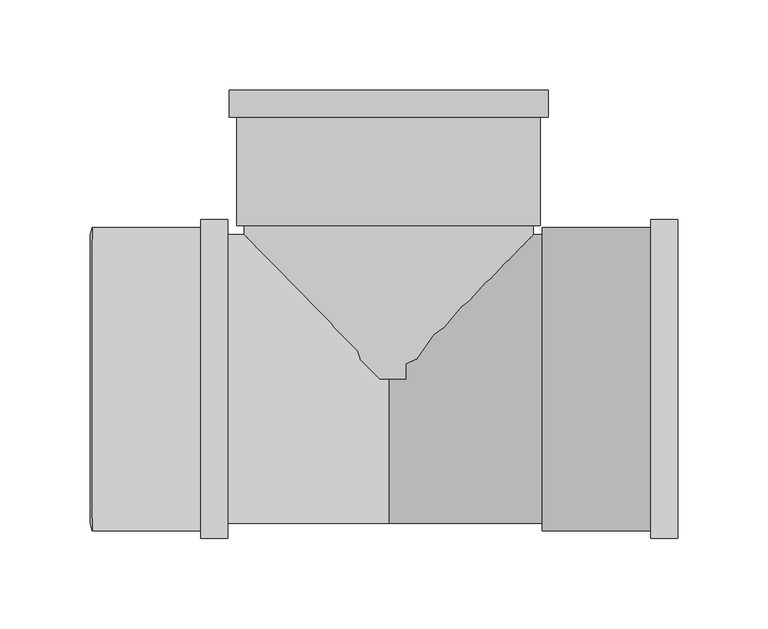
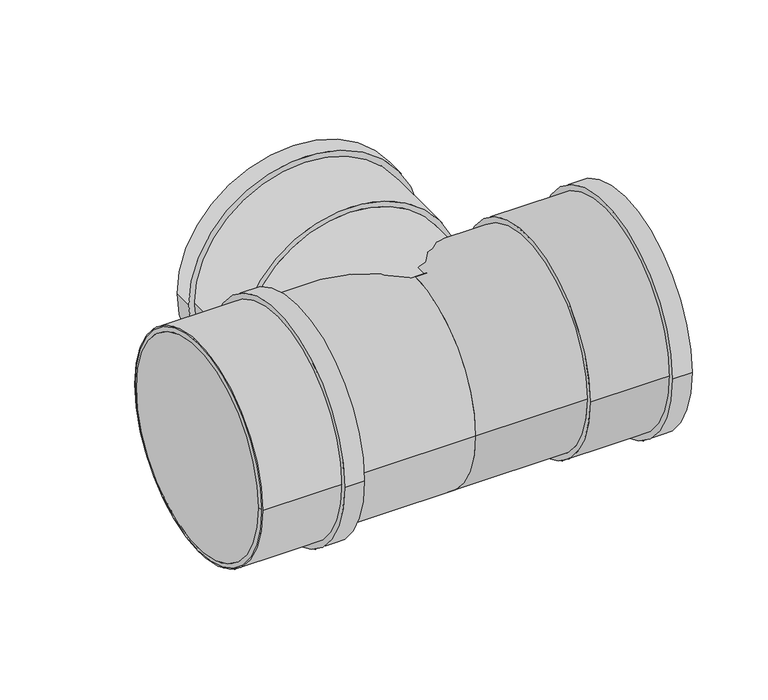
"""IFC4 building model written with IfcOpenShell, lengths in millimetres: pipe fitting geometry, Superdrain HTEA Branch : Superdrain HTEA Branch."""

from ifc_helpers import new_model, si_unit, point, frame, origin, origin_2d, place, context, project, spatial, polyline, circle_curve, trimmed, segment, composite_curve, outline, extrude, source, transform, mapped, element, save
from ifc_brep_helpers import plane_surface, revolved_surface, advanced_brep


def pipe_fitting_a100f701(model_context):
    return source(origin(), model_context, "Body", "SolidModel", [
        extrude(outline(composite_curve([segment(trimmed(circle_curve(origin_2d(), 84.0), [point((84.0, 0.0))], [point((-84.0, 0.0))], False, "CARTESIAN"), True, "CONTINUOUS"), segment(trimmed(circle_curve(origin_2d(), 84.0), [point((-84.0, 0.0))], [point((84.0, 0.0))], False, "CARTESIAN"), True, "CONTINUOUS")], self_intersect=False), holes=[composite_curve([segment(trimmed(circle_curve(origin_2d(), 80.0), [point((80.0, 0.0))], [point((-80.0, 0.0))], True, "CARTESIAN"), True, "CONTINUOUS"), segment(trimmed(circle_curve(origin_2d(), 80.0), [point((-80.0, 0.0))], [point((80.0, 0.0))], True, "CARTESIAN"), True, "CONTINUOUS")], self_intersect=False)]), frame((-164.1, 0.0, 0.0), z_axis=(1.0, 0.0, 0.0), x_axis=(0.0, 1.0, 0.0)), (0.0, 0.0, 1.0), 75.0),
        extrude(outline(composite_curve([segment(trimmed(circle_curve(origin_2d(), 88.2), [point((88.2, 0.0))], [point((-88.2, 0.0))], False, "CARTESIAN"), True, "CONTINUOUS"), segment(trimmed(circle_curve(origin_2d(), 88.2), [point((-88.2, 0.0))], [point((88.2, 0.0))], False, "CARTESIAN"), True, "CONTINUOUS")], self_intersect=False), holes=[composite_curve([segment(trimmed(circle_curve(origin_2d(), 80.0), [point((80.0, 0.0))], [point((-80.0, 0.0))], True, "CARTESIAN"), True, "CONTINUOUS"), segment(trimmed(circle_curve(origin_2d(), 80.0), [point((-80.0, 0.0))], [point((80.0, 0.0))], True, "CARTESIAN"), True, "CONTINUOUS")], self_intersect=False)]), frame((-104.1, 0.0, 0.0), z_axis=(1.0, 0.0, 0.0), x_axis=(0.0, 1.0, 0.0)), (0.0, 0.0, 1.0), 15.0),
        advanced_brep(
        [(-165.1, 80.0, 0.0), (-165.1, -80.0, 0.0), (-164.1, 84.0, 0.0), (-164.1, -84.0, 0.0)],
        [
            (0, 1, circle_curve(frame((-165.1, 0.0, 0.0), z_axis=(-1.0, 0.0, 0.0), x_axis=(0.0, 1.0, 0.0)), 80.0)),
            (1, 0, circle_curve(frame((-165.1, 0.0, 0.0), z_axis=(-1.0, 0.0, 0.0), x_axis=(0.0, -1.0, 0.0)), 80.0)),
            (2, 3, circle_curve(frame((-164.1, 0.0, 0.0), z_axis=(1.0, 0.0, 0.0), x_axis=(0.0, -1.0, 0.0)), 84.0)),
            (3, 2, circle_curve(frame((-164.1, 0.0, 0.0), z_axis=(1.0, 0.0, 0.0), x_axis=(0.0, 1.0, 0.0)), 84.0)),
            (3, 1),
            (0, 2),
        ],
        [
            plane_surface(frame((-165.1, 0.0, 0.0), z_axis=(-1.0, 0.0, 0.0), x_axis=(0.0, 0.0, -1.0))),
            plane_surface(frame((-164.1, 0.0, 0.0), z_axis=(1.0, 0.0, 0.0), x_axis=(0.0, 0.0, -1.0))),
            revolved_surface(polyline([(-165.1, 80.0, 0.0), (-164.1, 84.0, 0.0)]), (-185.1, 0.0, 0.0), (1.0, 0.0, 0.0)),
            revolved_surface(polyline([(-165.1, -80.0, 0.0), (-164.1, -84.0, 0.0)]), (-185.1, 0.0, 0.0), (1.0, 0.0, 0.0)),
        ],
        [
            (0, [[1, 2]]),
            (1, [[3, 4]]),
            (2, [[-4, 5, -1, 6]]),
            (3, [[-3, -6, -2, -5]]),
        ],
    ),
        extrude(outline(composite_curve([segment(trimmed(circle_curve(origin_2d(), 84.0), [point((-84.0, 0.0))], [point((84.0, 0.0))], False, "CARTESIAN"), True, "CONTINUOUS"), segment(trimmed(circle_curve(origin_2d(), 84.0), [point((84.0, 0.0))], [point((-84.0, 0.0))], False, "CARTESIAN"), True, "CONTINUOUS")], self_intersect=False), holes=[composite_curve([segment(trimmed(circle_curve(origin_2d(), 80.0), [point((80.0, 0.0))], [point((-80.0, 0.0))], True, "CARTESIAN"), True, "CONTINUOUS"), segment(trimmed(circle_curve(origin_2d(), 80.0), [point((-80.0, 0.0))], [point((80.0, 0.0))], True, "CARTESIAN"), True, "CONTINUOUS")], self_intersect=False)]), frame((84.9, 0.0, 0.0), z_axis=(1.0, 0.0, 0.0), x_axis=(0.0, 1.0, 0.0)), (0.0, 0.0, 1.0), 75.0),
        extrude(outline(composite_curve([segment(trimmed(circle_curve(origin_2d(), 88.2), [point((88.2, 0.0))], [point((-88.2, 0.0))], False, "CARTESIAN"), True, "CONTINUOUS"), segment(trimmed(circle_curve(origin_2d(), 88.2), [point((-88.2, 0.0))], [point((88.2, 0.0))], False, "CARTESIAN"), True, "CONTINUOUS")], self_intersect=False), holes=[composite_curve([segment(trimmed(circle_curve(origin_2d(), 80.0), [point((80.0, 0.0))], [point((-80.0, 0.0))], True, "CARTESIAN"), True, "CONTINUOUS"), segment(trimmed(circle_curve(origin_2d(), 80.0), [point((-80.0, 0.0))], [point((80.0, 0.0))], True, "CARTESIAN"), True, "CONTINUOUS")], self_intersect=False)]), frame((144.9, 0.0, 0.0), z_axis=(1.0, 0.0, 0.0), x_axis=(0.0, 1.0, 0.0)), (0.0, 0.0, 1.0), 15.0),
        extrude(outline(composite_curve([segment(trimmed(circle_curve(origin_2d(), 80.0), [point((0.0, 80.0))], [point((0.0, -80.0))], False, "CARTESIAN"), True, "CONTINUOUS"), segment(trimmed(circle_curve(origin_2d(), 80.0), [point((0.0, -80.0))], [point((0.0, 80.0))], False, "CARTESIAN"), True, "CONTINUOUS")], self_intersect=False)), frame((0.0, 0.0, 0.0), z_axis=(0.0, 1.0, 0.0), x_axis=(0.0, 0.0, 1.0)), (0.0, 0.0, 1.0), 84.9),
        extrude(outline(composite_curve([segment(trimmed(circle_curve(origin_2d(), 80.0), [point((80.0, 0.0))], [point((-80.0, 0.0))], False, "CARTESIAN"), True, "CONTINUOUS"), segment(trimmed(circle_curve(origin_2d(), 80.0), [point((-80.0, 0.0))], [point((80.0, 0.0))], False, "CARTESIAN"), True, "CONTINUOUS")], self_intersect=False)), frame((-164.1, 0.0, 0.0), z_axis=(1.0, 0.0, 0.0), x_axis=(0.0, 1.0, 0.0)), (0.0, 0.0, 1.0), 164.1),
        extrude(outline(composite_curve([segment(trimmed(circle_curve(origin_2d(), 80.0), [point((-80.0, 0.0))], [point((80.0, 0.0))], False, "CARTESIAN"), True, "CONTINUOUS"), segment(trimmed(circle_curve(origin_2d(), 80.0), [point((80.0, 0.0))], [point((-80.0, 0.0))], False, "CARTESIAN"), True, "CONTINUOUS")], self_intersect=False)), frame((0.0, 0.0, 0.0), z_axis=(1.0, 0.0, 0.0), x_axis=(0.0, 1.0, 0.0)), (0.0, 0.0, 1.0), 84.9),
        extrude(outline(composite_curve([segment(trimmed(circle_curve(origin_2d(), 88.2), [point((0.0, 88.2))], [point((0.0, -88.2))], False, "CARTESIAN"), True, "CONTINUOUS"), segment(trimmed(circle_curve(origin_2d(), 88.2), [point((0.0, -88.2))], [point((0.0, 88.2))], False, "CARTESIAN"), True, "CONTINUOUS")], self_intersect=False), holes=[composite_curve([segment(trimmed(circle_curve(origin_2d(), 80.0), [point((0.0, 80.0))], [point((0.0, -80.0))], True, "CARTESIAN"), True, "CONTINUOUS"), segment(trimmed(circle_curve(origin_2d(), 80.0), [point((0.0, -80.0))], [point((0.0, 80.0))], True, "CARTESIAN"), True, "CONTINUOUS")], self_intersect=False)]), frame((0.0, 144.9, 0.0), z_axis=(0.0, 1.0, 0.0), x_axis=(0.0, 0.0, 1.0)), (0.0, 0.0, 1.0), 15.0),
        extrude(outline(composite_curve([segment(trimmed(circle_curve(origin_2d(), 84.0), [point((0.0, 84.0))], [point((0.0, -84.0))], False, "CARTESIAN"), True, "CONTINUOUS"), segment(trimmed(circle_curve(origin_2d(), 84.0), [point((0.0, -84.0))], [point((0.0, 84.0))], False, "CARTESIAN"), True, "CONTINUOUS")], self_intersect=False), holes=[composite_curve([segment(trimmed(circle_curve(origin_2d(), 80.0), [point((0.0, 80.0))], [point((0.0, -80.0))], True, "CARTESIAN"), True, "CONTINUOUS"), segment(trimmed(circle_curve(origin_2d(), 80.0), [point((0.0, -80.0))], [point((0.0, 80.0))], True, "CARTESIAN"), True, "CONTINUOUS")], self_intersect=False)]), frame((0.0, 84.9, 0.0), z_axis=(0.0, 1.0, 0.0), x_axis=(0.0, 0.0, 1.0)), (0.0, 0.0, 1.0), 75.0),
    ])


if __name__ == "__main__":
    model = new_model("IFC4")
    model_context = context("Model", 3, world=origin())
    ifc_project = project(units=[si_unit("LENGTHUNIT", "METRE", prefix="MILLI")], contexts=[model_context])
    site = spatial("IfcSite", under=ifc_project)
    building = spatial("IfcBuilding", under=site)
    placement = place(None, origin())
    pipe_fitting_shape = pipe_fitting_a100f701(model_context)
    element("IfcPipeFitting", 1, ObjectType="Superdrain HTEA Branch : Superdrain HTEA Branch", at=placement, inside=building, context=model_context, shape_type="MappedRepresentation", body=[
        mapped(pipe_fitting_shape, transform((0.0, 0.0, 0.0), x_axis=(1.0, 0.0, 0.0), y_axis=(0.0, 1.0, 0.0), z_axis=(0.0, 0.0, 1.0))),
    ])
    save(model, "model.ifc")
